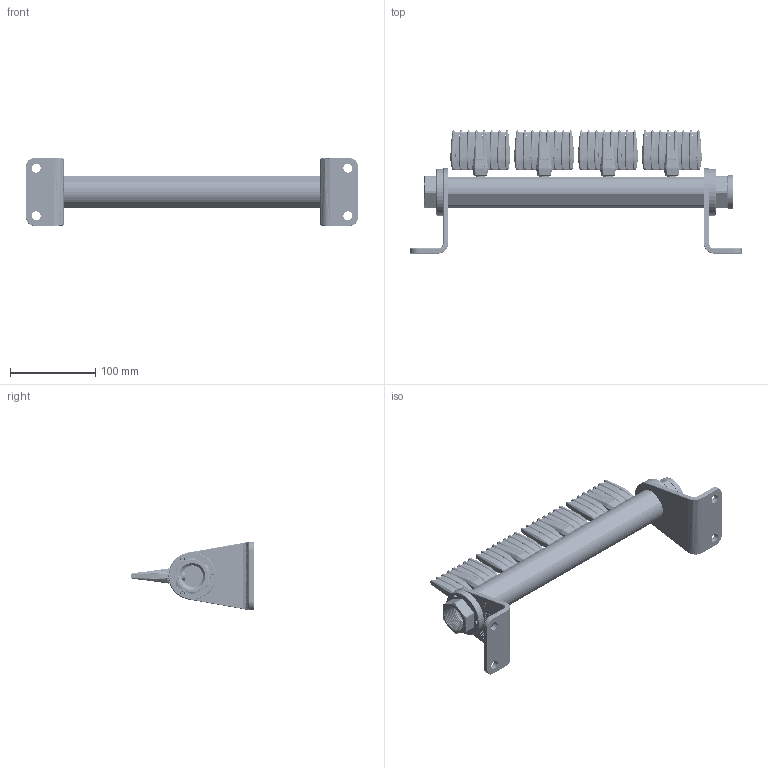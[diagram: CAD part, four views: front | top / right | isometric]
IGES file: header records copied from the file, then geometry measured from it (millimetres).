
Start section: SolidWorks IGES file using analytic representation for surfaces
Global section: file name: G:\SILVENT AB\ENGINEERING\Drawings\WEB CAD\CAD\384W-S.IGS; native system: SolidWorks 2021; preprocessor: SolidWorks 2021; author: p.jaasko; date: 241016.143550; units: millimetre
Bounding box: 390 x 144.5 x 80 mm (x, y, z)
Surface area: 176465.8 mm2 (no closed solid volume)
Topology: 0 solids, 0 shells, 5956 faces, 40456 edges, 40304 vertices
Faces by surface type: bspline 3496, revolution 2460
